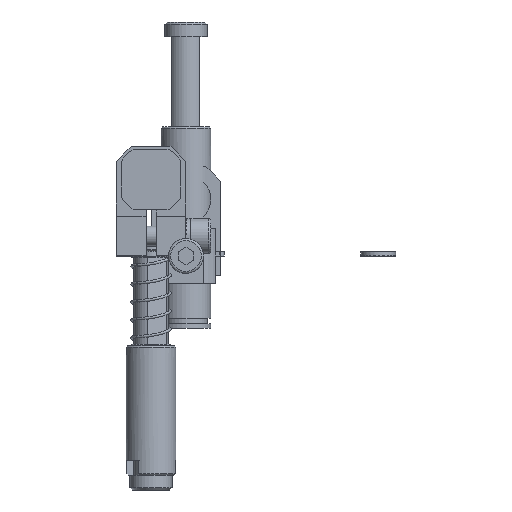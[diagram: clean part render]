
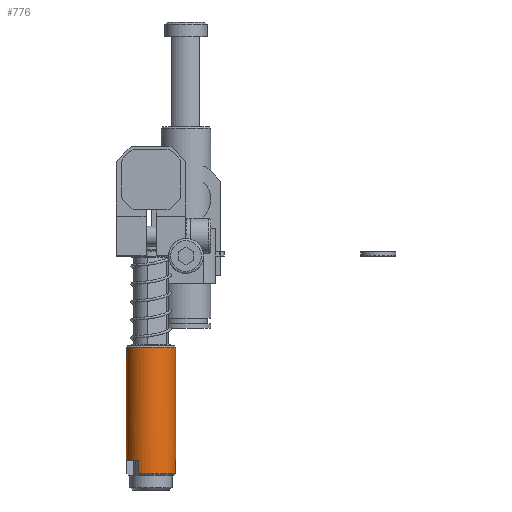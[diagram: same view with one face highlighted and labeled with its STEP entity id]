
A CAD part, left-side view. The second image highlights one B-rep face of the part: STEP entity #776.
In plain terms, the highlighted cylindrical face has radius 5 mm (diameter 10 mm), a full revolution.
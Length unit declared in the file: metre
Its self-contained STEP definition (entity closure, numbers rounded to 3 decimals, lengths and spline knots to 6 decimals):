
#776 = ADVANCED_FACE( '', ( #1522, #1523 ), #1524, .T. );
#1522 = FACE_OUTER_BOUND( '', #2261, .T. );
#1523 = FACE_OUTER_BOUND( '', #2262, .T. );
#1524 = CYLINDRICAL_SURFACE( '', #2263, 0.005 );
#2261 = EDGE_LOOP( '', ( #4669, #4670, #4671, #4672, #4673, #4674, #4675, #4676 ) );
#2262 = EDGE_LOOP( '', ( #4677 ) );
#2263 = AXIS2_PLACEMENT_3D( '', #4678, #4679, #4680 );
#4669 = ORIENTED_EDGE( '', *, *, #5763, .F. );
#4670 = ORIENTED_EDGE( '', *, *, #5777, .F. );
#4671 = ORIENTED_EDGE( '', *, *, #5773, .F. );
#4672 = ORIENTED_EDGE( '', *, *, #5760, .T. );
#4673 = ORIENTED_EDGE( '', *, *, #5771, .F. );
#4674 = ORIENTED_EDGE( '', *, *, #5779, .F. );
#4675 = ORIENTED_EDGE( '', *, *, #5766, .F. );
#4676 = ORIENTED_EDGE( '', *, *, #5770, .T. );
#4677 = ORIENTED_EDGE( '', *, *, #5785, .T. );
#4678 = CARTESIAN_POINT( '', ( 0., 0., 0.026 ) );
#4679 = DIRECTION( '', ( 0., 0., 1. ) );
#4680 = DIRECTION( '', ( -1., 0., 0. ) );
#5760 = EDGE_CURVE( '', #7097, #7094, #7098, .F. );
#5763 = EDGE_CURVE( '', #7102, #7103, #7104, .T. );
#5766 = EDGE_CURVE( '', #7106, #7108, #7109, .F. );
#5770 = EDGE_CURVE( '', #7106, #7103, #7115, .F. );
#5771 = EDGE_CURVE( '', #7116, #7094, #7117, .T. );
#5773 = EDGE_CURVE( '', #7097, #7119, #7120, .F. );
#5777 = EDGE_CURVE( '', #7119, #7102, #7126, .F. );
#5779 = EDGE_CURVE( '', #7108, #7116, #7128, .F. );
#5785 = EDGE_CURVE( '', #7136, #7136, #7137, .T. );
#7094 = VERTEX_POINT( '', #8973 );
#7097 = VERTEX_POINT( '', #8979 );
#7098 = CIRCLE( '', #8980, 0.005 );
#7102 = VERTEX_POINT( '', #8987 );
#7103 = VERTEX_POINT( '', #8988 );
#7104 = LINE( '', #8989, #8990 );
#7106 = VERTEX_POINT( '', #8995 );
#7108 = VERTEX_POINT( '', #9000 );
#7109 = LINE( '', #9001, #9002 );
#7115 = CIRCLE( '', #9011, 0.005 );
#7116 = VERTEX_POINT( '', #9012 );
#7117 = LINE( '', #9013, #9014 );
#7119 = VERTEX_POINT( '', #9017 );
#7120 = LINE( '', #9018, #9019 );
#7126 = CIRCLE( '', #9028, 0.005 );
#7128 = CIRCLE( '', #9030, 0.005 );
#7136 = VERTEX_POINT( '', #9038 );
#7137 = CIRCLE( '', #9039, 0.005 );
#8973 = CARTESIAN_POINT( '', ( 0.00285, 0.004108, 0.0003 ) );
#8979 = CARTESIAN_POINT( '', ( 0.00285, -0.004108, 0.0003 ) );
#8980 = AXIS2_PLACEMENT_3D( '', #10429, #10430, #10431 );
#8987 = CARTESIAN_POINT( '', ( -0.00285, -0.004108, 0.003 ) );
#8988 = CARTESIAN_POINT( '', ( -0.00285, -0.004108, 0.0003 ) );
#8989 = CARTESIAN_POINT( '', ( -0.00285, -0.004108, 0.026 ) );
#8990 = VECTOR( '', #10435, 1. );
#8995 = CARTESIAN_POINT( '', ( -0.00285, 0.004108, 0.0003 ) );
#9000 = CARTESIAN_POINT( '', ( -0.00285, 0.004108, 0.003 ) );
#9001 = CARTESIAN_POINT( '', ( -0.00285, 0.004108, 0.026 ) );
#9002 = VECTOR( '', #10436, 1. );
#9011 = AXIS2_PLACEMENT_3D( '', #10440, #10441, #10442 );
#9012 = CARTESIAN_POINT( '', ( 0.00285, 0.004108, 0.003 ) );
#9013 = CARTESIAN_POINT( '', ( 0.00285, 0.004108, 0.026 ) );
#9014 = VECTOR( '', #10443, 1. );
#9017 = CARTESIAN_POINT( '', ( 0.00285, -0.004108, 0.003 ) );
#9018 = CARTESIAN_POINT( '', ( 0.00285, -0.004108, 0.026 ) );
#9019 = VECTOR( '', #10445, 1. );
#9028 = AXIS2_PLACEMENT_3D( '', #10449, #10450, #10451 );
#9030 = AXIS2_PLACEMENT_3D( '', #10455, #10456, #10457 );
#9038 = CARTESIAN_POINT( '', ( -0.005, 0., 0.0257 ) );
#9039 = AXIS2_PLACEMENT_3D( '', #10473, #10474, #10475 );
#10429 = CARTESIAN_POINT( '', ( 0., 0., 0.0003 ) );
#10430 = DIRECTION( '', ( 0., 0., -1. ) );
#10431 = DIRECTION( '', ( -1., 0., 0. ) );
#10435 = DIRECTION( '', ( 0., 0., -1. ) );
#10436 = DIRECTION( '', ( 0., 0., -1. ) );
#10440 = CARTESIAN_POINT( '', ( 0., 0., 0.0003 ) );
#10441 = DIRECTION( '', ( 0., 0., -1. ) );
#10442 = DIRECTION( '', ( -1., 0., 0. ) );
#10443 = DIRECTION( '', ( 0., 0., -1. ) );
#10445 = DIRECTION( '', ( 0., 0., -1. ) );
#10449 = CARTESIAN_POINT( '', ( 0., 0., 0.003 ) );
#10450 = DIRECTION( '', ( 0., 0., 1. ) );
#10451 = DIRECTION( '', ( 1., 0., 0. ) );
#10455 = CARTESIAN_POINT( '', ( 0., 0., 0.003 ) );
#10456 = DIRECTION( '', ( 0., 0., 1. ) );
#10457 = DIRECTION( '', ( 1., 0., 0. ) );
#10473 = CARTESIAN_POINT( '', ( 0., 0., 0.0257 ) );
#10474 = DIRECTION( '', ( 0., 0., -1. ) );
#10475 = DIRECTION( '', ( -1., 0., 0. ) );
